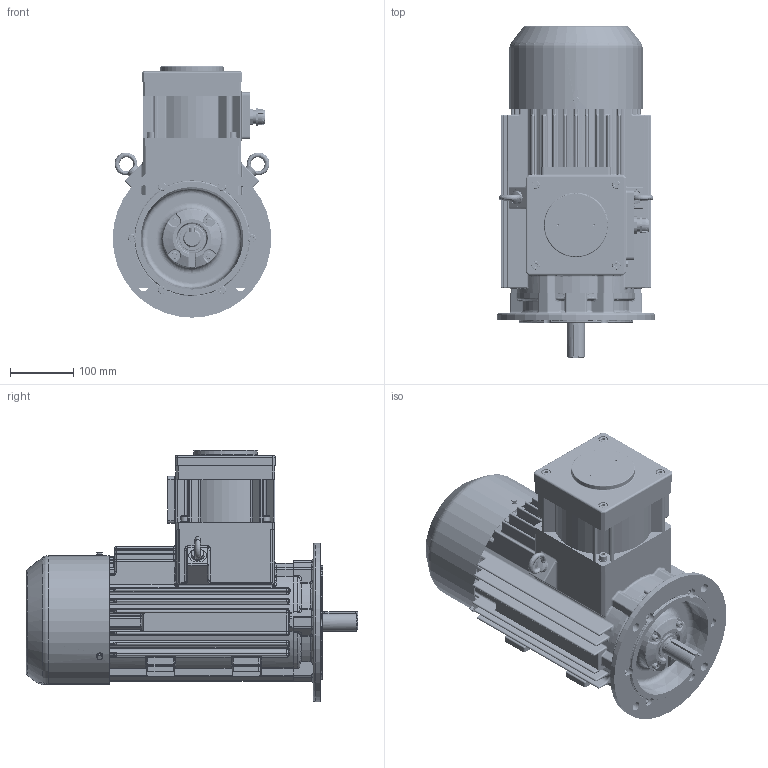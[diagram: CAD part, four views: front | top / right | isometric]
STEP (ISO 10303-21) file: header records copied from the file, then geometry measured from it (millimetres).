
FILE_DESCRIPTION(/* description */ ('Unknown'),/* implementation_level */ '2;1');
FILE_NAME(/* name */ '(E)cSTKe100L(2-8)-IE(2,3)',/* time_stamp */ '2021-12-17T11:30:13+01:00',/* author */ ('Unknown'),/* organization */ ('Unknown'),/* preprocessor_version */ 'ST-DEVELOPER v16.7',/* originating_system */ 'DEX',/* authorisation */ $);
FILE_SCHEMA (('AUTOMOTIVE_DESIGN {1 0 10303 214 3 1 1}'));
Products named in the file (1): (E)cSTKe100L(2-8)-IE(2,3)
Bounding box: 250 x 522.99 x 396 mm (x, y, z)
Volume: 16115639.7 mm3; surface area: 1244298 mm2
Topology: 3 solids, 26 shells, 4000 faces, 10445 edges, 6470 vertices
Faces by surface type: cylinder 1599, plane 1361, torus 328, bspline 290, cone 263, sphere 159
Full cylindrical faces by diameter (mm): 3.2 x4, 4.019 x3, 4.134 x3, 4.48 x1, 4.773 x4, 4.917 x22, 5 x7, 5.3 x4, 6 x10, 6.466 x14, 6.6 x4, 6.647 x36, 6.88 x4, 8 x30, 8.376 x13, 9 x10, 10 x8, 11 x4, 13 x14, 15 x15, 15.205 x1, 16.779 x1, 17.307 x1, 18.487 x1, 21.24 x1, 22.376 x1, 23.376 x1, 27.4 x1, 28 x3, 28.6 x3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
Entity records: 145220 total; most frequent: CARTESIAN_POINT 30771, DIRECTION 19994, ORIENTED_EDGE 19084, EDGE_CURVE 9542, AXIS2_PLACEMENT_3D 7783, VERTEX_POINT 6210, FACE_BOUND 4958, EDGE_LOOP 4918
